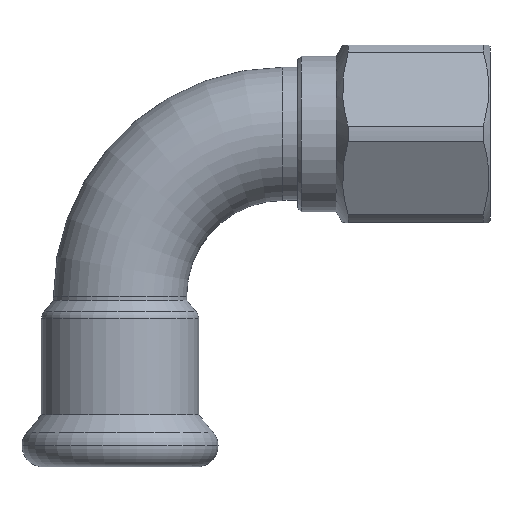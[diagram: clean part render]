
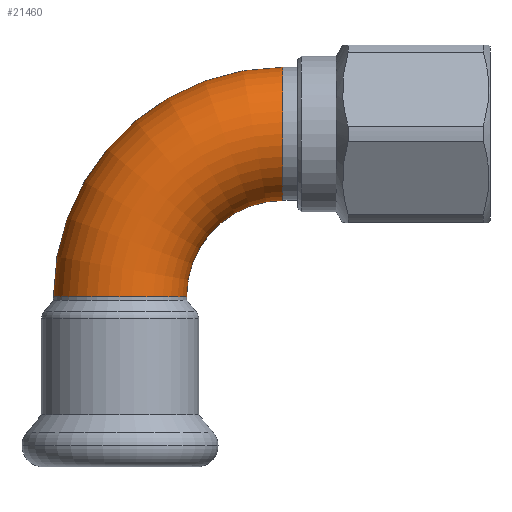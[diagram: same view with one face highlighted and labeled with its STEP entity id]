
A CAD part, top view. The second image highlights one B-rep face of the part: STEP entity #21460.
In plain terms, the highlighted toroidal (fillet/blend) face has major radius 22 mm and minor radius 9 mm.
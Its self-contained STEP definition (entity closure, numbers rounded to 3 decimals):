
#8950=CARTESIAN_POINT('',(-83.571,30.24,
0.));
#8960=VERTEX_POINT('',#8950);
#9040=CARTESIAN_POINT('',(-83.571,12.24,
0.));
#9050=VERTEX_POINT('',#9040);
#15290=CARTESIAN_POINT('',(-96.571,-0.76,
0.));
#15300=VERTEX_POINT('',#15290);
#15330=CARTESIAN_POINT('',(-105.571,-0.76,0.));
#15340=DIRECTION('',(0.,-1.,0.));
#15350=DIRECTION('',(1.,0.,0.));
#15360=AXIS2_PLACEMENT_3D('',#15330,#15340,#15350);
#15370=CIRCLE('',#15360,9.);
#15380=CARTESIAN_POINT('',(-114.571,-0.76,
0.));
#15390=VERTEX_POINT('',#15380);
#15520=CARTESIAN_POINT('',(-83.571,-0.76,
0.));
#15530=DIRECTION('',(0.,0.,1.));
#15540=DIRECTION('',(0.,1.,0.));
#15550=AXIS2_PLACEMENT_3D('',#15520,#15530,#15540);
#15560=TOROIDAL_SURFACE('',#15550,22.,9.);
#15570=CARTESIAN_POINT('',(-83.571,-0.76,
0.));
#15580=DIRECTION('',(0.,0.,1.));
#15590=DIRECTION('',(0.,1.,0.));
#15600=AXIS2_PLACEMENT_3D('',#15570,#15580,#15590);
#15610=CIRCLE('',#15600,13.);
#15620=EDGE_CURVE('',#9050,#15300,#15610,.T.);
#15650=CARTESIAN_POINT('',(-83.571,-0.76,
0.));
#15660=DIRECTION('',(0.,0.,1.));
#15670=DIRECTION('',(0.,1.,0.));
#15680=AXIS2_PLACEMENT_3D('',#15650,#15660,#15670);
#15690=CIRCLE('',#15680,31.);
#15700=EDGE_CURVE('',#8960,#15390,#15690,.T.);
#20820=CARTESIAN_POINT('',(-83.571,21.24,
0.));
#20830=DIRECTION('',(-1.,0.,0.));
#20840=DIRECTION('',(0.,-1.,0.));
#20850=AXIS2_PLACEMENT_3D('',#20820,#20830,#20840);
#20860=CIRCLE('',#20850,9.);
#20870=EDGE_CURVE('',#9050,#8960,#20860,.T.);
#21110=EDGE_CURVE('',#15300,#15390,#15370,.T.);
#21400=ORIENTED_EDGE('',*,*,#21110,.F.);
#21410=ORIENTED_EDGE('',*,*,#15700,.T.);
#21420=ORIENTED_EDGE('',*,*,#20870,.T.);
#21430=ORIENTED_EDGE('',*,*,#15620,.F.);
#21440=EDGE_LOOP('',(#21430,#21420,#21410,#21400));
#21450=FACE_OUTER_BOUND('',#21440,.T.);
#21460=ADVANCED_FACE('',(#21450),#15560,.T.);
